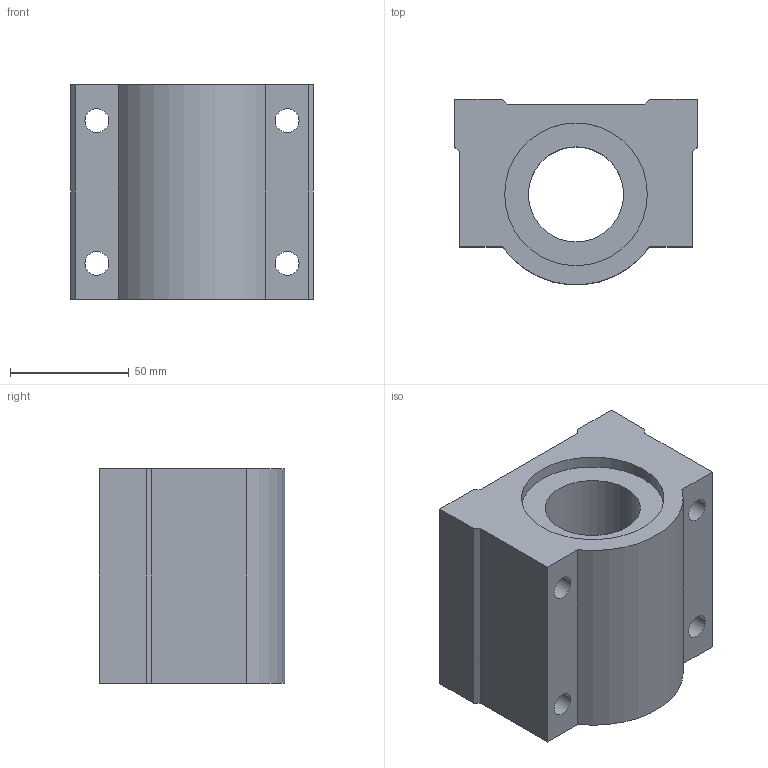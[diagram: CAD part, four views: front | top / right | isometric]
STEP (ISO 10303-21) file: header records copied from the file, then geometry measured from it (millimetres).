
FILE_DESCRIPTION((''),'2;1');
FILE_NAME('C:\Documents and Settings\ｿﾀﾀ蠑ｷ1\ｹﾙﾅﾁ ﾈｭｸ饅\ｺﾎﾇｰﾆﾄﾀﾏ\ﾁｦﾇｰ\SC__UU\SC40UU.stp','2005-06-22T14:40:17',('ｿﾀﾀ蠑ｷ1'),(''),'Autodesk Inventor 9','Autodesk Inventor 9','');
FILE_SCHEMA(('AUTOMOTIVE_DESIGN { 1 0 10303 214 1 1 1 1 }'));
Length unit declared in the file: millimetre
Products named in the file (1): SC__UU
Bounding box: 102 x 77.86 x 90 mm (x, y, z)
Volume: 457869.3 mm3; surface area: 60458.6 mm2
Topology: 1 solids, 1 shells, 32 faces, 84 edges, 56 vertices
Faces by surface type: plane 17, bspline 8, cylinder 7
Entity records: 1145 total; most frequent: CARTESIAN_POINT 309, ORIENTED_EDGE 168, DIRECTION 164, EDGE_CURVE 84, VERTEX_POINT 56, AXIS2_PLACEMENT_3D 55, VECTOR 54, LINE 54
